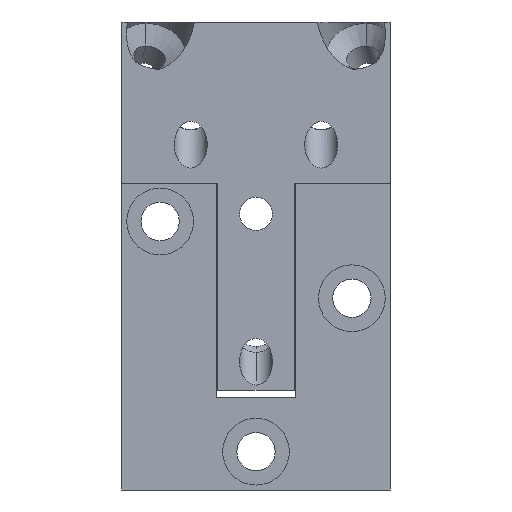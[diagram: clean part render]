
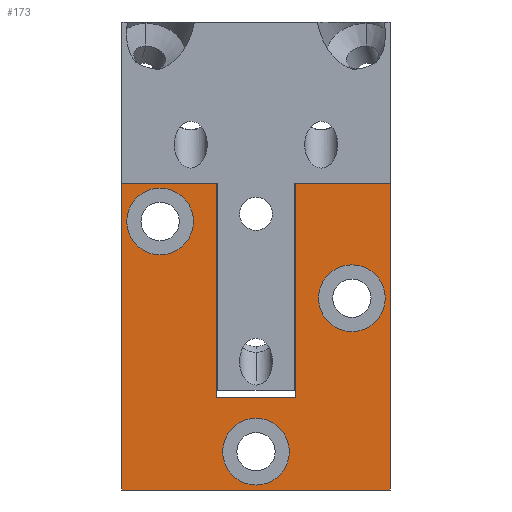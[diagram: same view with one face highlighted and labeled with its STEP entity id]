
A CAD part, front view. The second image highlights one B-rep face of the part: STEP entity #173.
In plain terms, the highlighted planar face has unit normal (0, -1, 0).
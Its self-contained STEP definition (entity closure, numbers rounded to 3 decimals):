
#173=ADVANCED_FACE('',(#451,#452,#453,#454),#455,.T.);
#451=FACE_OUTER_BOUND('',#864,.T.);
#452=FACE_BOUND('',#865,.T.);
#453=FACE_BOUND('',#866,.T.);
#454=FACE_BOUND('',#867,.T.);
#455=PLANE('',#868);
#864=EDGE_LOOP('',(#1328,#1329,#1330,#1331,#1332,#1333,#1334,#1335));
#865=EDGE_LOOP('',(#1336,#1337));
#866=EDGE_LOOP('',(#1338,#1339));
#867=EDGE_LOOP('',(#1340,#1341));
#868=AXIS2_PLACEMENT_3D('',#1342,#1343,#1344);
#1328=ORIENTED_EDGE('',*,*,#2412,.F.);
#1329=ORIENTED_EDGE('',*,*,#2423,.T.);
#1330=ORIENTED_EDGE('',*,*,#2431,.T.);
#1331=ORIENTED_EDGE('',*,*,#2433,.T.);
#1332=ORIENTED_EDGE('',*,*,#2434,.F.);
#1333=ORIENTED_EDGE('',*,*,#2435,.F.);
#1334=ORIENTED_EDGE('',*,*,#2436,.T.);
#1335=ORIENTED_EDGE('',*,*,#2437,.T.);
#1336=ORIENTED_EDGE('',*,*,#2408,.T.);
#1337=ORIENTED_EDGE('',*,*,#2438,.T.);
#1338=ORIENTED_EDGE('',*,*,#2398,.T.);
#1339=ORIENTED_EDGE('',*,*,#2439,.T.);
#1340=ORIENTED_EDGE('',*,*,#2440,.T.);
#1341=ORIENTED_EDGE('',*,*,#2388,.T.);
#1342=CARTESIAN_POINT('',(-17.5,0.,-61.0));
#1343=DIRECTION('',(0.,-1.0,0.0));
#1344=DIRECTION('',(1.0,0.,0.0));
#2388=EDGE_CURVE('',#2841,#2845,#2847,.T.);
#2398=EDGE_CURVE('',#2859,#2863,#2865,.T.);
#2408=EDGE_CURVE('',#2877,#2881,#2883,.T.);
#2412=EDGE_CURVE('',#2888,#2890,#2891,.T.);
#2423=EDGE_CURVE('',#2888,#2906,#2908,.T.);
#2431=EDGE_CURVE('',#2906,#2918,#2920,.T.);
#2433=EDGE_CURVE('',#2918,#2922,#2923,.T.);
#2434=EDGE_CURVE('',#2924,#2922,#2925,.T.);
#2435=EDGE_CURVE('',#2926,#2924,#2927,.T.);
#2436=EDGE_CURVE('',#2926,#2928,#2929,.T.);
#2437=EDGE_CURVE('',#2928,#2890,#2930,.T.);
#2438=EDGE_CURVE('',#2881,#2877,#2931,.T.);
#2439=EDGE_CURVE('',#2863,#2859,#2932,.T.);
#2440=EDGE_CURVE('',#2845,#2841,#2933,.T.);
#2841=VERTEX_POINT('',#3506);
#2845=VERTEX_POINT('',#3511);
#2847=CIRCLE('',#3514,4.35);
#2859=VERTEX_POINT('',#3528);
#2863=VERTEX_POINT('',#3533);
#2865=CIRCLE('',#3536,4.35);
#2877=VERTEX_POINT('',#3550);
#2881=VERTEX_POINT('',#3555);
#2883=CIRCLE('',#3558,4.35);
#2888=VERTEX_POINT('',#3564);
#2890=VERTEX_POINT('',#3567);
#2891=LINE('',#3568,#3569);
#2906=VERTEX_POINT('',#3591);
#2908=LINE('',#3594,#3595);
#2918=VERTEX_POINT('',#3609);
#2920=LINE('',#3612,#3613);
#2922=VERTEX_POINT('',#3615);
#2923=LINE('',#3616,#3617);
#2924=VERTEX_POINT('',#3618);
#2925=LINE('',#3619,#3620);
#2926=VERTEX_POINT('',#3621);
#2927=LINE('',#3622,#3623);
#2928=VERTEX_POINT('',#3624);
#2929=LINE('',#3625,#3626);
#2930=LINE('',#3627,#3628);
#2931=CIRCLE('',#3629,4.35);
#2932=CIRCLE('',#3630,4.35);
#2933=CIRCLE('',#3631,4.35);
#3506=CARTESIAN_POINT('',(-4.35,0.,-56.0));
#3511=CARTESIAN_POINT('',(4.35,0.,-56.0));
#3514=AXIS2_PLACEMENT_3D('',#4467,#4468,#4469);
#3528=CARTESIAN_POINT('',(-16.85,0.,-26.0));
#3533=CARTESIAN_POINT('',(-8.15,0.,-26.0));
#3536=AXIS2_PLACEMENT_3D('',#4483,#4484,#4485);
#3550=CARTESIAN_POINT('',(8.15,0.,-36.0));
#3555=CARTESIAN_POINT('',(16.85,0.,-36.0));
#3558=AXIS2_PLACEMENT_3D('',#4499,#4500,#4501);
#3564=CARTESIAN_POINT('',(5.2,0.,-21.0));
#3567=CARTESIAN_POINT('',(17.5,0.,-21.0));
#3568=CARTESIAN_POINT('',(-17.5,0.,-21.0));
#3569=VECTOR('',#4504,10.0);
#3591=CARTESIAN_POINT('',(5.2,0.,-49.0));
#3594=CARTESIAN_POINT('',(5.2,0.,-41.0));
#3595=VECTOR('',#4513,10.0);
#3609=CARTESIAN_POINT('',(-5.2,0.,-49.0));
#3612=CARTESIAN_POINT('',(-8.75,0.,-49.0));
#3613=VECTOR('',#4519,10.0);
#3615=CARTESIAN_POINT('',(-5.2,0.,-21.0));
#3616=CARTESIAN_POINT('',(-5.2,0.,-41.0));
#3617=VECTOR('',#4520,10.0);
#3618=CARTESIAN_POINT('',(-17.5,0.,-21.0));
#3619=CARTESIAN_POINT('',(-17.5,0.,-21.0));
#3620=VECTOR('',#4521,10.0);
#3621=CARTESIAN_POINT('',(-17.5,0.,-61.0));
#3622=CARTESIAN_POINT('',(-17.5,0.,-61.0));
#3623=VECTOR('',#4522,10.0);
#3624=CARTESIAN_POINT('',(17.5,0.,-61.0));
#3625=CARTESIAN_POINT('',(-17.5,0.,-61.0));
#3626=VECTOR('',#4523,10.0);
#3627=CARTESIAN_POINT('',(17.5,0.,-61.0));
#3628=VECTOR('',#4524,10.0);
#3629=AXIS2_PLACEMENT_3D('',#4525,#4526,#4527);
#3630=AXIS2_PLACEMENT_3D('',#4528,#4529,#4530);
#3631=AXIS2_PLACEMENT_3D('',#4531,#4532,#4533);
#4467=CARTESIAN_POINT('',(0.0,0.,-56.0));
#4468=DIRECTION('',(0.,1.0,0.0));
#4469=DIRECTION('',(-1.0,0.,0.0));
#4483=CARTESIAN_POINT('',(-12.5,0.,-26.0));
#4484=DIRECTION('',(0.,1.0,0.0));
#4485=DIRECTION('',(-1.0,0.,0.0));
#4499=CARTESIAN_POINT('',(12.5,0.0,-36.0));
#4500=DIRECTION('',(0.,1.0,0.0));
#4501=DIRECTION('',(-1.0,0.,0.0));
#4504=DIRECTION('',(1.0,0.,0.0));
#4513=DIRECTION('',(0.0,0.0,-1.0));
#4519=DIRECTION('',(-1.0,0.,0.0));
#4520=DIRECTION('',(0.0,0.0,1.0));
#4521=DIRECTION('',(1.0,0.,0.0));
#4522=DIRECTION('',(0.0,0.0,1.0));
#4523=DIRECTION('',(1.0,0.,0.0));
#4524=DIRECTION('',(0.0,0.0,1.0));
#4525=CARTESIAN_POINT('',(12.5,0.0,-36.0));
#4526=DIRECTION('',(0.,1.0,0.0));
#4527=DIRECTION('',(-1.0,0.,0.0));
#4528=CARTESIAN_POINT('',(-12.5,0.,-26.0));
#4529=DIRECTION('',(0.,1.0,0.0));
#4530=DIRECTION('',(-1.0,0.,0.0));
#4531=CARTESIAN_POINT('',(0.0,0.,-56.0));
#4532=DIRECTION('',(0.,1.0,0.0));
#4533=DIRECTION('',(-1.0,0.,0.0));
